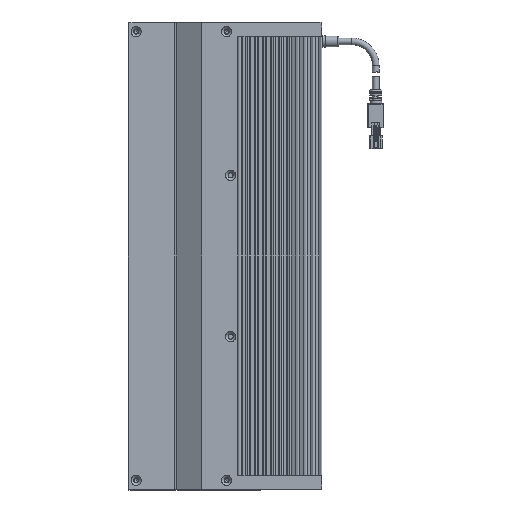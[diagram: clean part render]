
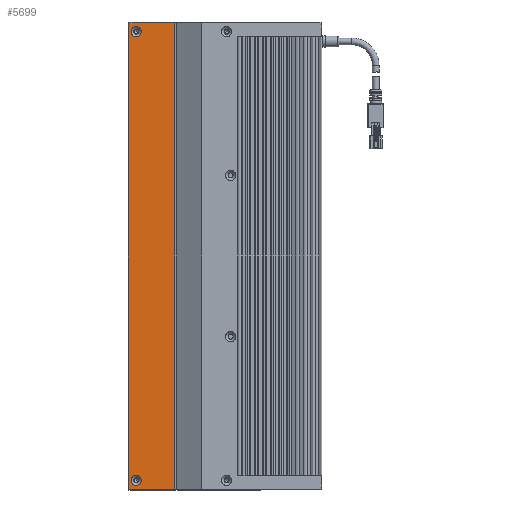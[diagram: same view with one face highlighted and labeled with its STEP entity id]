
A CAD part, left-side view. The second image highlights one B-rep face of the part: STEP entity #5699.
In plain terms, the highlighted planar face has unit normal (-1, 0, 0).
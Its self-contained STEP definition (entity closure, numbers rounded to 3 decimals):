
#173 = VECTOR ( 'NONE', #384, 1000. ) ;
#384 = DIRECTION ( 'NONE',  ( 0., 0., 1. ) ) ;
#726 = CARTESIAN_POINT ( 'NONE',  ( -15.462, 21.439, 407.5 ) ) ;
#1156 = CARTESIAN_POINT ( 'NONE',  ( -15.462, 16.939, 406.65 ) ) ;
#2921 = AXIS2_PLACEMENT_3D ( 'NONE', #25869, #33509, #28706 ) ;
#4172 = CARTESIAN_POINT ( 'NONE',  ( -15.462, -6.987, 407.5 ) ) ;
#4257 = EDGE_CURVE ( 'NONE', #26841, #17320, #12097, .T. ) ;
#5699 = ADVANCED_FACE ( 'NONE', ( #28961, #20460, #30575 ), #8145, .F. ) ;
#6025 = DIRECTION ( 'NONE',  ( 0., 0., 1. ) ) ;
#6550 = VERTEX_POINT ( 'NONE', #29568 ) ;
#8145 = PLANE ( 'NONE',  #33268 ) ;
#8267 = CARTESIAN_POINT ( 'NONE',  ( -15.462, 16.939, 403.5 ) ) ;
#8364 = DIRECTION ( 'NONE',  ( 1., 0., 0. ) ) ;
#9101 = EDGE_CURVE ( 'NONE', #17320, #11795, #21079, .T. ) ;
#11064 = CARTESIAN_POINT ( 'NONE',  ( -15.462, -6.987, 120. ) ) ;
#11188 = EDGE_CURVE ( 'NONE', #6550, #26841, #25638, .T. ) ;
#11753 = CARTESIAN_POINT ( 'NONE',  ( -15.462, -7.561, 120. ) ) ;
#11795 = VERTEX_POINT ( 'NONE', #19157 ) ;
#12097 = LINE ( 'NONE', #11753, #30331 ) ;
#12381 = CIRCLE ( 'NONE', #29344, 3.15 ) ;
#12794 = DIRECTION ( 'NONE',  ( 0., 0., -1. ) ) ;
#12863 = VECTOR ( 'NONE', #23619, 1000. ) ;
#13796 = DIRECTION ( 'NONE',  ( 0., 0., -1. ) ) ;
#14219 = CIRCLE ( 'NONE', #2921, 3.15 ) ;
#15015 = EDGE_CURVE ( 'NONE', #15690, #15690, #12381, .T. ) ;
#15690 = VERTEX_POINT ( 'NONE', #1156 ) ;
#16038 = CARTESIAN_POINT ( 'NONE',  ( -15.462, -7.561, 409. ) ) ;
#16843 = EDGE_LOOP ( 'NONE', ( #17341, #17953, #22803, #30547 ) ) ;
#17235 = CARTESIAN_POINT ( 'NONE',  ( -15.462, 16.939, 128.65 ) ) ;
#17320 = VERTEX_POINT ( 'NONE', #28754 ) ;
#17341 = ORIENTED_EDGE ( 'NONE', *, *, #9101, .F. ) ;
#17953 = ORIENTED_EDGE ( 'NONE', *, *, #4257, .F. ) ;
#19157 = CARTESIAN_POINT ( 'NONE',  ( -15.462, 21.439, 409. ) ) ;
#19540 = VECTOR ( 'NONE', #12794, 1000. ) ;
#19739 = LINE ( 'NONE', #16038, #12863 ) ;
#20460 = FACE_BOUND ( 'NONE', #23203, .T. ) ;
#21079 = LINE ( 'NONE', #726, #173 ) ;
#21355 = EDGE_CURVE ( 'NONE', #11795, #6550, #19739, .T. ) ;
#21519 = DIRECTION ( 'NONE',  ( -1., 0., 0. ) ) ;
#22177 = DIRECTION ( 'NONE',  ( 0., 1., 0. ) ) ;
#22803 = ORIENTED_EDGE ( 'NONE', *, *, #11188, .F. ) ;
#23203 = EDGE_LOOP ( 'NONE', ( #31102 ) ) ;
#23619 = DIRECTION ( 'NONE',  ( 0., -1., 0. ) ) ;
#23880 = CARTESIAN_POINT ( 'NONE',  ( -15.462, -7.561, 407.5 ) ) ;
#24676 = EDGE_CURVE ( 'NONE', #29095, #29095, #14219, .T. ) ;
#25638 = LINE ( 'NONE', #4172, #19540 ) ;
#25869 = CARTESIAN_POINT ( 'NONE',  ( -15.462, 16.939, 125.5 ) ) ;
#26841 = VERTEX_POINT ( 'NONE', #11064 ) ;
#28706 = DIRECTION ( 'NONE',  ( 0., 0., 1. ) ) ;
#28754 = CARTESIAN_POINT ( 'NONE',  ( -15.462, 21.439, 120. ) ) ;
#28961 = FACE_BOUND ( 'NONE', #31630, .T. ) ;
#29095 = VERTEX_POINT ( 'NONE', #17235 ) ;
#29344 = AXIS2_PLACEMENT_3D ( 'NONE', #8267, #21519, #6025 ) ;
#29568 = CARTESIAN_POINT ( 'NONE',  ( -15.462, -6.987, 409. ) ) ;
#30331 = VECTOR ( 'NONE', #22177, 1000. ) ;
#30547 = ORIENTED_EDGE ( 'NONE', *, *, #21355, .F. ) ;
#30575 = FACE_OUTER_BOUND ( 'NONE', #16843, .T. ) ;
#31102 = ORIENTED_EDGE ( 'NONE', *, *, #15015, .F. ) ;
#31630 = EDGE_LOOP ( 'NONE', ( #32451 ) ) ;
#32451 = ORIENTED_EDGE ( 'NONE', *, *, #24676, .F. ) ;
#33268 = AXIS2_PLACEMENT_3D ( 'NONE', #23880, #8364, #13796 ) ;
#33509 = DIRECTION ( 'NONE',  ( -1., 0., 0. ) ) ;
